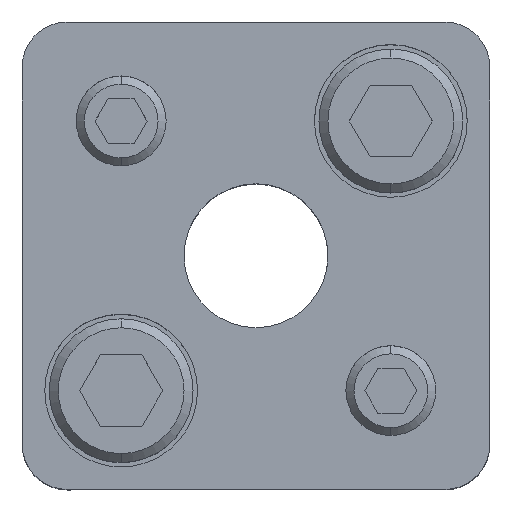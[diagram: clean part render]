
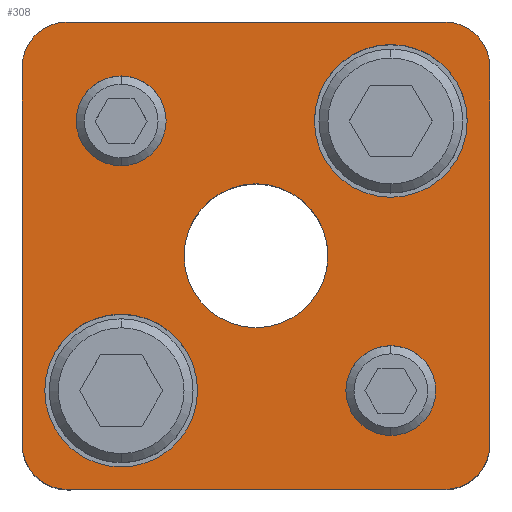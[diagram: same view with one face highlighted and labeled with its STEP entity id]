
A CAD part, top view. The second image highlights one B-rep face of the part: STEP entity #308.
In plain terms, the highlighted planar face has unit normal (0, 0, 1).
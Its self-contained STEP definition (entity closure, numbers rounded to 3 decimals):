
#165=PLANE('',#2567);
#228=FACE_BOUND('',#643,.T.);
#229=FACE_BOUND('',#644,.T.);
#230=FACE_BOUND('',#645,.T.);
#231=FACE_BOUND('',#646,.T.);
#232=FACE_BOUND('',#647,.T.);
#233=FACE_BOUND('',#648,.T.);
#308=ADVANCED_FACE('',(#228,#229,#230,#231,#232,#233),#165,.T.);
#643=EDGE_LOOP('',(#1335,#1336,#1337,#1338,#1339,#1340,#1341,#1342));
#644=EDGE_LOOP('',(#1343,#1344));
#645=EDGE_LOOP('',(#1345,#1346));
#646=EDGE_LOOP('',(#1347,#1348));
#647=EDGE_LOOP('',(#1349,#1350));
#648=EDGE_LOOP('',(#1351,#1352));
#806=LINE('',#3770,#988);
#807=LINE('',#3774,#989);
#808=LINE('',#3778,#990);
#809=LINE('',#3782,#991);
#988=VECTOR('',#3009,1.);
#989=VECTOR('',#3012,1.);
#990=VECTOR('',#3015,1.);
#991=VECTOR('',#3018,1.);
#1335=ORIENTED_EDGE('',*,*,#2102,.T.);
#1336=ORIENTED_EDGE('',*,*,#2103,.T.);
#1337=ORIENTED_EDGE('',*,*,#2104,.T.);
#1338=ORIENTED_EDGE('',*,*,#2105,.T.);
#1339=ORIENTED_EDGE('',*,*,#2106,.T.);
#1340=ORIENTED_EDGE('',*,*,#2107,.T.);
#1341=ORIENTED_EDGE('',*,*,#2108,.T.);
#1342=ORIENTED_EDGE('',*,*,#2109,.T.);
#1343=ORIENTED_EDGE('',*,*,#2110,.F.);
#1344=ORIENTED_EDGE('',*,*,#2111,.F.);
#1345=ORIENTED_EDGE('',*,*,#2112,.F.);
#1346=ORIENTED_EDGE('',*,*,#2113,.F.);
#1347=ORIENTED_EDGE('',*,*,#2088,.F.);
#1348=ORIENTED_EDGE('',*,*,#2084,.F.);
#1349=ORIENTED_EDGE('',*,*,#2082,.F.);
#1350=ORIENTED_EDGE('',*,*,#2078,.F.);
#1351=ORIENTED_EDGE('',*,*,#2114,.T.);
#1352=ORIENTED_EDGE('',*,*,#2115,.T.);
#1837=VERTEX_POINT('',#3718);
#1838=VERTEX_POINT('',#3719);
#1841=VERTEX_POINT('',#3731);
#1842=VERTEX_POINT('',#3732);
#1853=VERTEX_POINT('',#3768);
#1854=VERTEX_POINT('',#3769);
#1855=VERTEX_POINT('',#3771);
#1856=VERTEX_POINT('',#3773);
#1857=VERTEX_POINT('',#3775);
#1858=VERTEX_POINT('',#3777);
#1859=VERTEX_POINT('',#3779);
#1860=VERTEX_POINT('',#3781);
#1861=VERTEX_POINT('',#3784);
#1862=VERTEX_POINT('',#3785);
#1863=VERTEX_POINT('',#3788);
#1864=VERTEX_POINT('',#3789);
#1865=VERTEX_POINT('',#3792);
#1866=VERTEX_POINT('',#3793);
#2078=EDGE_CURVE('',#1837,#1838,#2355,.T.);
#2082=EDGE_CURVE('',#1838,#1837,#2357,.T.);
#2084=EDGE_CURVE('',#1841,#1842,#2359,.T.);
#2088=EDGE_CURVE('',#1842,#1841,#2361,.T.);
#2102=EDGE_CURVE('',#1853,#1854,#2371,.T.);
#2103=EDGE_CURVE('',#1854,#1855,#806,.T.);
#2104=EDGE_CURVE('',#1855,#1856,#2372,.T.);
#2105=EDGE_CURVE('',#1856,#1857,#807,.T.);
#2106=EDGE_CURVE('',#1857,#1858,#2373,.T.);
#2107=EDGE_CURVE('',#1858,#1859,#808,.T.);
#2108=EDGE_CURVE('',#1859,#1860,#2374,.T.);
#2109=EDGE_CURVE('',#1860,#1853,#809,.T.);
#2110=EDGE_CURVE('',#1861,#1862,#2375,.T.);
#2111=EDGE_CURVE('',#1862,#1861,#2376,.T.);
#2112=EDGE_CURVE('',#1863,#1864,#2377,.T.);
#2113=EDGE_CURVE('',#1864,#1863,#2378,.T.);
#2114=EDGE_CURVE('',#1865,#1866,#2379,.T.);
#2115=EDGE_CURVE('',#1866,#1865,#2380,.T.);
#2355=CIRCLE('',#2531,5.);
#2357=CIRCLE('',#2534,5.);
#2359=CIRCLE('',#2538,5.);
#2361=CIRCLE('',#2541,5.);
#2371=CIRCLE('',#2557,5.);
#2372=CIRCLE('',#2558,5.);
#2373=CIRCLE('',#2559,5.);
#2374=CIRCLE('',#2560,5.);
#2375=CIRCLE('',#2561,8.5);
#2376=CIRCLE('',#2562,8.5);
#2377=CIRCLE('',#2563,8.5);
#2378=CIRCLE('',#2564,8.5);
#2379=CIRCLE('',#2565,8.);
#2380=CIRCLE('',#2566,8.);
#2531=AXIS2_PLACEMENT_3D('',#3717,#2947,#2948);
#2534=AXIS2_PLACEMENT_3D('',#3726,#2955,#2956);
#2538=AXIS2_PLACEMENT_3D('',#3730,#2963,#2964);
#2541=AXIS2_PLACEMENT_3D('',#3739,#2971,#2972);
#2557=AXIS2_PLACEMENT_3D('',#3767,#3007,#3008);
#2558=AXIS2_PLACEMENT_3D('',#3772,#3010,#3011);
#2559=AXIS2_PLACEMENT_3D('',#3776,#3013,#3014);
#2560=AXIS2_PLACEMENT_3D('',#3780,#3016,#3017);
#2561=AXIS2_PLACEMENT_3D('',#3783,#3019,#3020);
#2562=AXIS2_PLACEMENT_3D('',#3786,#3021,#3022);
#2563=AXIS2_PLACEMENT_3D('',#3787,#3023,#3024);
#2564=AXIS2_PLACEMENT_3D('',#3790,#3025,#3026);
#2565=AXIS2_PLACEMENT_3D('',#3791,#3027,#3028);
#2566=AXIS2_PLACEMENT_3D('',#3794,#3029,#3030);
#2567=AXIS2_PLACEMENT_3D('',#3795,#3031,#3032);
#2947=DIRECTION('',(0.,0.,1.));
#2948=DIRECTION('',(-1.,0.,0.));
#2955=DIRECTION('',(0.,0.,1.));
#2956=DIRECTION('',(1.,0.,0.));
#2963=DIRECTION('',(0.,0.,1.));
#2964=DIRECTION('',(-1.,0.,0.));
#2971=DIRECTION('',(0.,0.,1.));
#2972=DIRECTION('',(1.,0.,0.));
#3007=DIRECTION('',(0.,0.,1.));
#3008=DIRECTION('',(-0.707,0.707,0.));
#3009=DIRECTION('',(0.,1.,0.));
#3010=DIRECTION('',(0.,0.,1.));
#3011=DIRECTION('',(-0.707,-0.707,0.));
#3012=DIRECTION('',(-1.,0.,0.));
#3013=DIRECTION('',(0.,0.,1.));
#3014=DIRECTION('',(0.707,-0.707,0.));
#3015=DIRECTION('',(0.,-1.,0.));
#3016=DIRECTION('',(0.,0.,1.));
#3017=DIRECTION('',(0.707,0.707,0.));
#3018=DIRECTION('',(1.,0.,0.));
#3019=DIRECTION('',(0.,0.,1.));
#3020=DIRECTION('',(1.,0.,0.));
#3021=DIRECTION('',(0.,0.,1.));
#3022=DIRECTION('',(-1.,0.,0.));
#3023=DIRECTION('',(0.,0.,1.));
#3024=DIRECTION('',(1.,0.,0.));
#3025=DIRECTION('',(0.,0.,1.));
#3026=DIRECTION('',(-1.,0.,0.));
#3027=DIRECTION('',(0.,0.,-1.));
#3028=DIRECTION('',(-1.,0.,0.));
#3029=DIRECTION('',(0.,0.,-1.));
#3030=DIRECTION('',(1.,0.,0.));
#3031=DIRECTION('',(0.,0.,1.));
#3032=DIRECTION('',(-1.,0.,0.));
#3717=CARTESIAN_POINT('',(15.,-15.,35.));
#3718=CARTESIAN_POINT('',(15.,-20.,35.));
#3719=CARTESIAN_POINT('',(15.,-10.,35.));
#3726=CARTESIAN_POINT('',(15.,-15.,35.));
#3730=CARTESIAN_POINT('',(-15.,15.,35.));
#3731=CARTESIAN_POINT('',(-15.,10.,35.));
#3732=CARTESIAN_POINT('',(-15.,20.,35.));
#3739=CARTESIAN_POINT('',(-15.,15.,35.));
#3767=CARTESIAN_POINT('',(21.,-21.,35.));
#3768=CARTESIAN_POINT('',(21.,-26.,35.));
#3769=CARTESIAN_POINT('',(26.,-21.,35.));
#3770=CARTESIAN_POINT('',(26.,21.,35.));
#3771=CARTESIAN_POINT('',(26.,21.,35.));
#3772=CARTESIAN_POINT('',(21.,21.,35.));
#3773=CARTESIAN_POINT('',(21.,26.,35.));
#3774=CARTESIAN_POINT('',(-21.,26.,35.));
#3775=CARTESIAN_POINT('',(-21.,26.,35.));
#3776=CARTESIAN_POINT('',(-21.,21.,35.));
#3777=CARTESIAN_POINT('',(-26.,21.,35.));
#3778=CARTESIAN_POINT('',(-26.,21.,35.));
#3779=CARTESIAN_POINT('',(-26.,-21.,35.));
#3780=CARTESIAN_POINT('',(-21.,-21.,35.));
#3781=CARTESIAN_POINT('',(-21.,-26.,35.));
#3782=CARTESIAN_POINT('',(-21.,-26.,35.));
#3783=CARTESIAN_POINT('',(15.,15.,35.));
#3784=CARTESIAN_POINT('',(15.,23.5,35.));
#3785=CARTESIAN_POINT('',(15.,6.5,35.));
#3786=CARTESIAN_POINT('',(15.,15.,35.));
#3787=CARTESIAN_POINT('',(-15.,-15.,35.));
#3788=CARTESIAN_POINT('',(-15.,-6.5,35.));
#3789=CARTESIAN_POINT('',(-15.,-23.5,35.));
#3790=CARTESIAN_POINT('',(-15.,-15.,35.));
#3791=CARTESIAN_POINT('',(0.,0.,35.));
#3792=CARTESIAN_POINT('',(0.,8.,35.));
#3793=CARTESIAN_POINT('',(0.,-8.,35.));
#3794=CARTESIAN_POINT('',(0.,0.,35.));
#3795=CARTESIAN_POINT('',(21.,-26.,35.));
